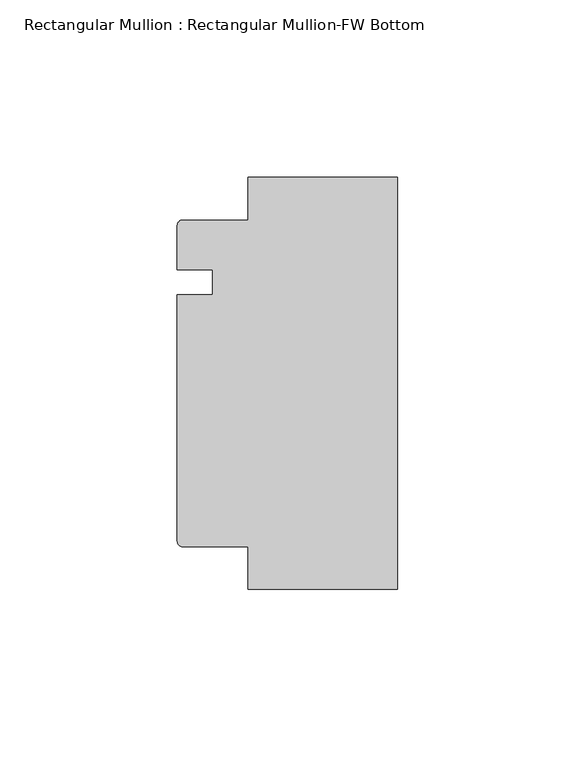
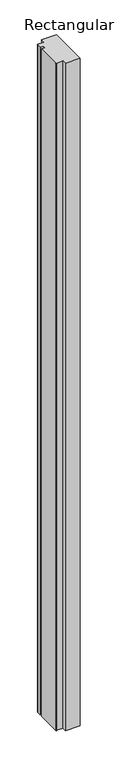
"""IFC4 building model written with IfcOpenShell, lengths in millimetres: member geometry, Rectangular Mullion : Rectangular Mullion-FW Bottom."""

from ifc_helpers import new_model, si_unit, point, frame, frame_2d, origin, place, context, project, spatial, polyline, circle_curve, trimmed, segment, composite_curve, outline, extrude, source, transform, mapped, element, save


def rectangular_mullion_rectangular_mullion_fw_bottom_0e01fafb(model_context):
    return source(origin(), model_context, "Body", "SweptSolid", [
        extrude(outline(composite_curve([segment(polyline([(-60.5201031, 0.0), (-42.0, 0.0), (-42.0, 12.0), (0.0, 12.0), (0.0, -104.0), (-42.0, -104.0), (-42.0, -92.0), (-60.5201031, -92.0)]), True, "CONTINUOUS"), segment(trimmed(circle_curve(frame_2d((-60.5201031, -90.5201031)), 1.4798969), [point((-60.5201031, -92.0))], [point((-62.0, -90.5201031))], False, "CARTESIAN"), True, "CONTINUOUS"), segment(polyline([(-62.0, -90.5201031), (-62.0, -21.0), (-52.0, -21.0), (-52.0, -14.0), (-62.0, -14.0), (-62.0, -1.4798969)]), True, "CONTINUOUS"), segment(trimmed(circle_curve(frame_2d((-60.5201031, -1.4798969)), 1.4798969), [point((-62.0, -1.4798969))], [point((-60.5201031, 0.0))], False, "CARTESIAN"), True, "CONTINUOUS")], self_intersect=False)), frame((0.0, 0.0, -2000.0), z_axis=(0.0, 0.0, 1.0), x_axis=(1.0, 0.0, 0.0)), (0.0, 0.0, 1.0), 2000.0),
    ])


if __name__ == "__main__":
    model = new_model("IFC4")
    model_context = context("Model", 3, world=origin())
    ifc_project = project(units=[si_unit("LENGTHUNIT", "METRE", prefix="MILLI")], contexts=[model_context])
    site = spatial("IfcSite", under=ifc_project)
    building = spatial("IfcBuilding", under=site)
    placement = place(None, origin())
    rectangular_mullion_rectangular_mullion_fw_bottom_shape = rectangular_mullion_rectangular_mullion_fw_bottom_0e01fafb(model_context)
    element("IfcMember", 1, ObjectType="Rectangular Mullion : Rectangular Mullion-FW Bottom", at=placement, inside=building, context=model_context, shape_type="MappedRepresentation", body=[
        mapped(rectangular_mullion_rectangular_mullion_fw_bottom_shape, transform((0.0, 0.0, 0.0), x_axis=(1.0, 0.0, 0.0), y_axis=(0.0, 1.0, 0.0), z_axis=(0.0, 0.0, 1.0))),
    ])
    save(model, "model.ifc")
